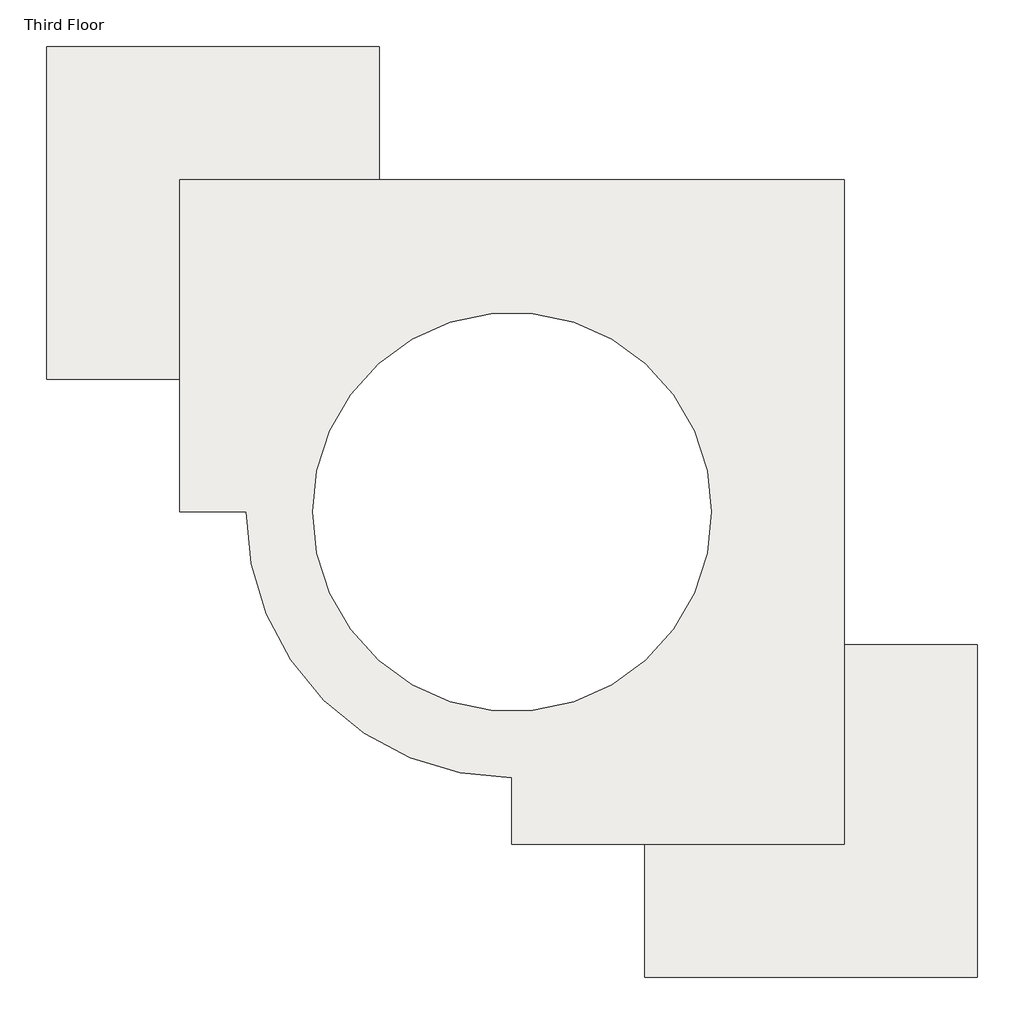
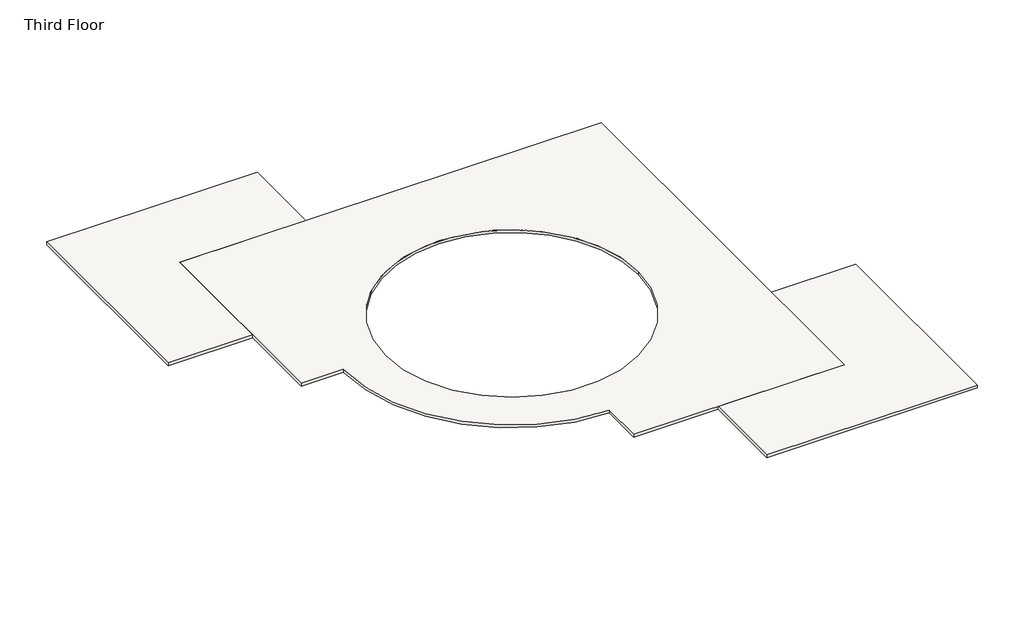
# One storey: 4 slabs.
"""IFC4 building model written with IfcOpenShell, lengths in millimetres."""

import ifcopenshell
import ifcopenshell.guid

model = None  # the IFC model being written
_history = None  # IfcOwnerHistory: only IFC2X3 demands one
_inside = {}  # id of a spatial element -> (the spatial element, [elements in it])
_under = {}  # id of a project, library or spatial element -> (it, [spatial elements below it])
_declared = {}  # id of a project -> (the project, [libraries it declares])
_typed = {}  # id of a type object -> (the type object, [elements of that type])
_made_of = {}  # id of a material, layer set ... -> (it, [elements and type objects made of it])


def new_model(schema):
    """Start an empty IFC model of exactly this schema.

    Asked for "IFC4X3", IfcOpenShell would pick the latest addendum, in which some entities
    have other attributes; the version numbers below select the first issue.
    IFC2X3 requires an IfcOwnerHistory on every rooted entity: one is made here for all.
    """
    global model, _history
    if schema == "IFC4X3":
        model = ifcopenshell.file(schema_version=(4, 3, 0, 0))
    else:
        model = ifcopenshell.file(schema=schema)
    _inside.clear()
    _under.clear()
    _declared.clear()
    _typed.clear()
    _made_of.clear()
    _history = None
    if model.schema == "IFC2X3":
        org = make("IfcOrganization", Name="unknown")
        user = make(
            "IfcPersonAndOrganization",
            ThePerson=make("IfcPerson", FamilyName="unknown"),
            TheOrganization=org,
        )
        app = make(
            "IfcApplication",
            ApplicationDeveloper=org,
            Version="unknown",
            ApplicationFullName="unknown",
            ApplicationIdentifier="unknown",
        )
        _history = make(
            "IfcOwnerHistory",
            OwningUser=user,
            OwningApplication=app,
            ChangeAction="ADDED",
            CreationDate=0,
        )
    return model


def make(cls, **values):
    """One entity of the class cls with the attributes given. An attribute that is None is left unset."""
    return model.create_entity(
        cls, **{name: value for name, value in values.items() if value is not None}
    )


def rooted(cls, **values):
    """An entity with a GlobalId (a new one), such as an element, a storey or a relation."""
    return make(cls, GlobalId=ifcopenshell.guid.new(), OwnerHistory=_history, **values)


def si_unit(unit_type, name, prefix=None):
    """IfcSIUnit, for example si_unit("LENGTHUNIT", "METRE", prefix="MILLI")."""
    return make("IfcSIUnit", UnitType=unit_type, Prefix=prefix, Name=name)


def assignment(units):
    """IfcUnitAssignment: the units of a project."""
    return None if units is None else make("IfcUnitAssignment", Units=units)


def point(xyz):
    """IfcCartesianPoint."""
    return None if xyz is None else make("IfcCartesianPoint", Coordinates=xyz)


def direction(xyz):
    """IfcDirection."""
    return None if xyz is None else make("IfcDirection", DirectionRatios=xyz)


def frame(location, z_axis=None, x_axis=None):
    """IfcAxis2Placement3D, a coordinate frame: its origin and axes. An axis left out is left unset."""
    return make(
        "IfcAxis2Placement3D",
        Location=point(location),
        Axis=direction(z_axis),
        RefDirection=direction(x_axis),
    )


def frame_2d(location, x_axis=None):
    """IfcAxis2Placement2D, a coordinate frame in the plane: its origin and x axis."""
    return make(
        "IfcAxis2Placement2D", Location=point(location), RefDirection=direction(x_axis)
    )


def origin():
    """The frame at (0, 0, 0) with its axes left unset."""
    return frame((0.0, 0.0, 0.0))


def place(relative_to, where):
    """IfcLocalPlacement: puts the frame where relative to a parent placement (None: the world)."""
    return make(
        "IfcLocalPlacement", PlacementRelTo=relative_to, RelativePlacement=where
    )


def context(
    kind, dimensions, precision=None, world=None, true_north=None, identifier=None
):
    """IfcGeometricRepresentationContext, for example the 3D "Model" context."""
    return make(
        "IfcGeometricRepresentationContext",
        ContextIdentifier=identifier,
        ContextType=kind,
        CoordinateSpaceDimension=dimensions,
        Precision=precision,
        WorldCoordinateSystem=world,
        TrueNorth=true_north,
    )


def project(units=None, contexts=None):
    """IfcProject with its units and contexts."""
    return rooted(
        "IfcProject",
        Name="project",
        RepresentationContexts=contexts,
        UnitsInContext=assignment(units),
    )


def spatial(cls, under=None, at=None, **own):
    """A site, building, storey or space (cls), placed at a placement, below another one or the project."""
    s = rooted(cls, ObjectPlacement=at, **own)
    if under is not None:
        _under.setdefault(under.id(), (under, []))[1].append(s)
    return s


def polyline(points):
    """IfcPolyline through the points."""
    return make("IfcPolyline", Points=[point(p) for p in points])


def circle_curve(where, radius):
    """IfcCircle in the frame where."""
    return make("IfcCircle", Position=where, Radius=radius)


def trimmed(basis, trim1, trim2, sense, master):
    """IfcTrimmedCurve: the piece of a basis curve between two trims."""
    return make(
        "IfcTrimmedCurve",
        BasisCurve=basis,
        Trim1=trim1,
        Trim2=trim2,
        SenseAgreement=sense,
        MasterRepresentation=master,
    )


def segment(curve, same_sense, transition):
    """IfcCompositeCurveSegment."""
    return make(
        "IfcCompositeCurveSegment",
        Transition=transition,
        SameSense=same_sense,
        ParentCurve=curve,
    )


def composite_curve(segments, self_intersect=None):
    """IfcCompositeCurve: segments joined end to end."""
    return make("IfcCompositeCurve", Segments=segments, SelfIntersect=self_intersect)


def outline(outer, holes=None, kind="AREA"):
    """IfcArbitraryClosedProfileDef: a profile drawn as a closed curve; with holes, ...WithVoids."""
    if holes is None:
        return make("IfcArbitraryClosedProfileDef", ProfileType=kind, OuterCurve=outer)
    return make(
        "IfcArbitraryProfileDefWithVoids",
        ProfileType=kind,
        OuterCurve=outer,
        InnerCurves=holes,
    )


def extrude(swept, where, along, depth):
    """IfcExtrudedAreaSolid: the profile swept, set in the frame where, extruded along a direction by depth."""
    return make(
        "IfcExtrudedAreaSolid",
        SweptArea=swept,
        Position=where,
        ExtrudedDirection=direction(along),
        Depth=depth,
    )


def shape(context_of_items, identifier, shape_type, items):
    """IfcShapeRepresentation: the items that make up one representation, for example the "Body"."""
    return make(
        "IfcShapeRepresentation",
        ContextOfItems=context_of_items,
        RepresentationIdentifier=identifier,
        RepresentationType=shape_type,
        Items=items,
    )


def made_of(thing, what):
    """Note that an element or type object is made of a material, layer set ...; save() writes the relation."""
    if what is not None:
        _made_of.setdefault(what.id(), (what, []))[1].append(thing)
    return thing


def element(
    cls,
    number,
    at=None,
    inside=None,
    cuts=None,
    type_object=None,
    material=None,
    context=None,
    identifier="Body",
    shape_type=None,
    held_by="IfcProductDefinitionShape",
    body=None,
    shapes=None,
    **own,
):
    """One element of the class cls, such as IfcWall. Its Tag is "e" and its number.

    at: its placement. inside: the storey or other place that contains it. cuts: it is an
    opening in that element (IfcRelVoidsElement). A single representation is given by context,
    identifier, shape_type and body (its items); several are given by shapes. held_by: the class
    of the entity that holds the representations. save() writes the other relations.
    """
    e = rooted(cls, Tag="e%d" % number, ObjectPlacement=at, **own)
    if body is not None:
        shapes = [shape(context, identifier, shape_type, body)]
    if shapes is not None:
        e.Representation = make(held_by, Representations=shapes)
    if inside is not None:
        _inside.setdefault(inside.id(), (inside, []))[1].append(e)
    if cuts is not None:
        rooted(
            "IfcRelVoidsElement", RelatingBuildingElement=cuts, RelatedOpeningElement=e
        )
    if type_object is not None:
        _typed.setdefault(type_object.id(), (type_object, []))[1].append(e)
    return made_of(e, material)


def aggregate(whole, parts):
    """IfcRelAggregates: a whole, such as a stair, and the parts it consists of."""
    return rooted("IfcRelAggregates", RelatingObject=whole, RelatedObjects=parts)


def save(model, path):
    """Write the relations noted so far, then the file.

    IfcRelAggregates (storeys below a building ...), IfcRelContainedInSpatialStructure (elements
    in a storey), IfcRelDefinesByType, IfcRelAssociatesMaterial and IfcRelDeclares: one each for
    every whole, place, type object, material and project.
    """
    for whole, parts in _under.values():
        aggregate(whole, parts)
    for where, things in _inside.values():
        rooted(
            "IfcRelContainedInSpatialStructure",
            RelatedElements=things,
            RelatingStructure=where,
        )
    for kind, things in _typed.values():
        rooted("IfcRelDefinesByType", RelatedObjects=things, RelatingType=kind)
    for what, things in _made_of.values():
        rooted("IfcRelAssociatesMaterial", RelatedObjects=things, RelatingMaterial=what)
    for by, libraries in _declared.values():
        rooted("IfcRelDeclares", RelatingContext=by, RelatedDefinitions=libraries)
    model.write(path)


model = new_model("IFC4")

# Units and contexts
model_context = context("Model", 3, world=origin())
ifc_project = project(units=[si_unit("LENGTHUNIT", "METRE", prefix="MILLI")], contexts=[model_context])

# Site, building, storey
site = spatial("IfcSite", under=ifc_project)
building = spatial("IfcBuilding", under=site)
storey = spatial("IfcBuildingStorey", under=building, Name="Third Floor", Elevation=6096.0)

# Slabs
placement = place(None, origin())
element("IfcSlab", 1, ObjectType="LW Concrete on Metal Deck", at=placement, inside=storey, context=model_context, shape_type="SweptSolid", body=[
    extrude(outline(composite_curve([segment(polyline([(5148.8943843, 6934.0139224), (5148.8943843, -8305.9860776), (-2471.1056157, -8305.9860776), (-2471.1056157, -6781.9860776)]), True, "CONTINUOUS"), segment(trimmed(circle_curve(frame_2d((-2471.1056157, -685.9860776)), 6096.0), [point((-2471.1056157, -6781.9860776))], [point((-8567.1056157, -685.9860776))], False, "CARTESIAN"), True, "CONTINUOUS"), segment(polyline([(-8567.1056157, -685.9860776), (-10091.1056157, -685.9860776), (-10091.1056157, 6934.0139224), (5148.8943843, 6934.0139224)]), True, "CONTINUOUS")], self_intersect=False), holes=[composite_curve([segment(trimmed(circle_curve(frame_2d((-2471.1056157, -685.9860776)), 4572.0), [point((2100.8943843, -685.9860776))], [point((-7043.1056157, -685.9860776))], True, "CARTESIAN"), True, "CONTINUOUS"), segment(trimmed(circle_curve(frame_2d((-2471.1056157, -685.9860776)), 4572.0), [point((-7043.1056157, -685.9860776))], [point((2100.8943843, -685.9860776))], True, "CARTESIAN"), True, "CONTINUOUS")], self_intersect=False)]), frame((0.0, 0.0, 5991.225), z_axis=(0.0, 0.0, 1.0), x_axis=(1.0, 0.0, 0.0)), (0.0, 0.0, 1.0), 104.775),
])
element("IfcSlab", 2, ObjectType="LW Concrete on Metal Deck", at=placement, inside=storey, context=model_context, shape_type="SweptSolid", body=[
    extrude(outline(polyline([(8196.8943843, -3733.9860776), (8196.8943843, -11353.9860776), (576.8943843, -11353.9860776), (576.8943843, -8305.9860776), (5148.8943843, -8305.9860776), (5148.8943843, -3733.9860776), (8196.8943843, -3733.9860776)])), frame((0.0, 0.0, 5991.225), z_axis=(0.0, 0.0, 1.0), x_axis=(1.0, 0.0, 0.0)), (0.0, 0.0, 1.0), 104.775),
    extrude(outline(polyline([(-5519.1056157, 9982.0139224), (-5519.1056157, 6934.0139224), (-10091.1056157, 6934.0139224), (-10091.1056157, 2362.0139224), (-13139.1056157, 2362.0139224), (-13139.1056157, 9982.0139224), (-5519.1056157, 9982.0139224)])), frame((0.0, 0.0, 5991.225), z_axis=(0.0, 0.0, 1.0), x_axis=(1.0, 0.0, 0.0)), (0.0, 0.0, 1.0), 104.775),
])
element("IfcSlab", 3, ObjectType="LW Concrete on Metal Deck", at=placement, inside=storey, context=model_context, shape_type="SweptSolid", body=[
    extrude(outline(composite_curve([segment(polyline([(5148.8943843, 6934.0139224), (5148.8943843, -8305.9860776), (-2471.1056157, -8305.9860776), (-2471.1056157, -6781.9860776)]), True, "CONTINUOUS"), segment(trimmed(circle_curve(frame_2d((-2471.1056157, -685.9860776)), 6096.0), [point((-2471.1056157, -6781.9860776))], [point((-8567.1056157, -685.9860776))], False, "CARTESIAN"), True, "CONTINUOUS"), segment(polyline([(-8567.1056157, -685.9860776), (-10091.1056157, -685.9860776), (-10091.1056157, 6934.0139224), (5148.8943843, 6934.0139224)]), True, "CONTINUOUS")], self_intersect=False), holes=[composite_curve([segment(trimmed(circle_curve(frame_2d((-2471.1056157, -685.9860776)), 4572.0), [point((2100.8943843, -685.9860776))], [point((-7043.1056157, -685.9860776))], True, "CARTESIAN"), True, "CONTINUOUS"), segment(trimmed(circle_curve(frame_2d((-2471.1056157, -685.9860776)), 4572.0), [point((-7043.1056157, -685.9860776))], [point((2100.8943843, -685.9860776))], True, "CARTESIAN"), True, "CONTINUOUS")], self_intersect=False)]), frame((0.0, 0.0, 5991.225), z_axis=(0.0, 0.0, 1.0), x_axis=(1.0, 0.0, 0.0)), (0.0, 0.0, 1.0), 104.775),
])
element("IfcSlab", 4, ObjectType="LW Concrete on Metal Deck", at=placement, inside=storey, context=model_context, shape_type="SweptSolid", body=[
    extrude(outline(polyline([(8196.8943843, -3733.9860776), (8196.8943843, -11353.9860776), (576.8943843, -11353.9860776), (576.8943843, -8305.9860776), (5148.8943843, -8305.9860776), (5148.8943843, -3733.9860776), (8196.8943843, -3733.9860776)])), frame((0.0, 0.0, 5991.225), z_axis=(0.0, 0.0, 1.0), x_axis=(1.0, 0.0, 0.0)), (0.0, 0.0, 1.0), 104.775),
    extrude(outline(polyline([(-5519.1056157, 9982.0139224), (-5519.1056157, 6934.0139224), (-10091.1056157, 6934.0139224), (-10091.1056157, 2362.0139224), (-13139.1056157, 2362.0139224), (-13139.1056157, 9982.0139224), (-5519.1056157, 9982.0139224)])), frame((0.0, 0.0, 5991.225), z_axis=(0.0, 0.0, 1.0), x_axis=(1.0, 0.0, 0.0)), (0.0, 0.0, 1.0), 104.775),
])

save(model, "model.ifc")
